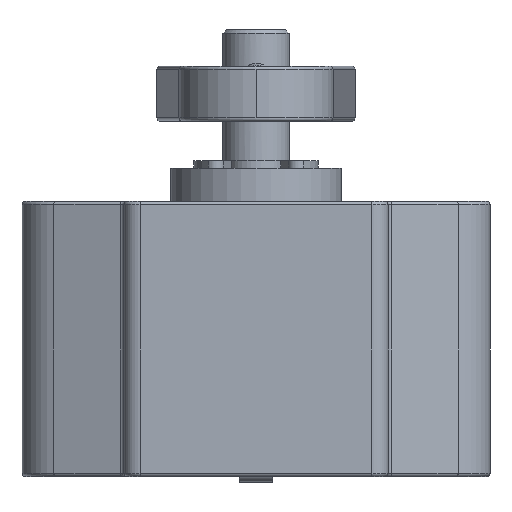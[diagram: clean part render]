
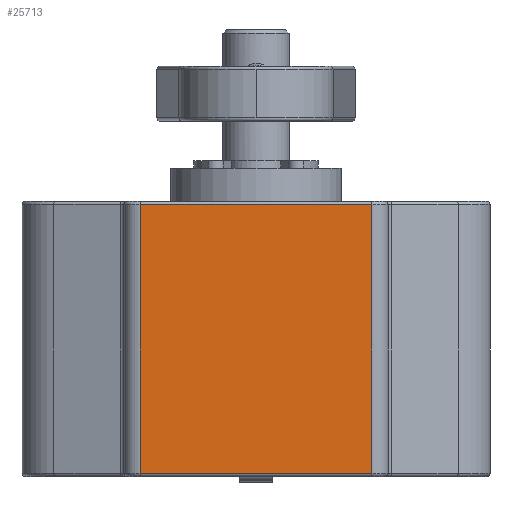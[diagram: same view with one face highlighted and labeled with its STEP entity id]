
A CAD part, front view. The second image highlights one B-rep face of the part: STEP entity #25713.
In plain terms, the highlighted planar face has unit normal (0, -1, 0).
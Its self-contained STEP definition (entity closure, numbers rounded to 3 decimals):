
#44 = LINE ( 'NONE', #13844, #12508 ) ;
#1268 = DIRECTION ( 'NONE',  ( 1., 0., 0. ) ) ;
#1589 = FACE_OUTER_BOUND ( 'NONE', #24464, .T. ) ;
#2717 = LINE ( 'NONE', #10736, #11971 ) ;
#3313 = AXIS2_PLACEMENT_3D ( 'NONE', #23558, #19350, #15393 ) ;
#3882 = ORIENTED_EDGE ( 'NONE', *, *, #17895, .T. ) ;
#7228 = VERTEX_POINT ( 'NONE', #22332 ) ;
#8078 = VERTEX_POINT ( 'NONE', #15217 ) ;
#8864 = CARTESIAN_POINT ( 'NONE',  ( 10.5, -13., -27.7 ) ) ;
#9059 = ORIENTED_EDGE ( 'NONE', *, *, #11480, .T. ) ;
#9956 = VECTOR ( 'NONE', #1268, 1000. ) ;
#10384 = VERTEX_POINT ( 'NONE', #25570 ) ;
#10736 = CARTESIAN_POINT ( 'NONE',  ( 10.5, -13., -28. ) ) ;
#11246 = LINE ( 'NONE', #19293, #9956 ) ;
#11480 = EDGE_CURVE ( 'NONE', #8078, #7228, #44, .T. ) ;
#11804 = ORIENTED_EDGE ( 'NONE', *, *, #23178, .T. ) ;
#11971 = VECTOR ( 'NONE', #18791, 1000. ) ;
#12508 = VECTOR ( 'NONE', #21900, 1000. ) ;
#13286 = PLANE ( 'NONE',  #3313 ) ;
#13844 = CARTESIAN_POINT ( 'NONE',  ( -10.5, -13., -3.3 ) ) ;
#15217 = CARTESIAN_POINT ( 'NONE',  ( 10.5, -13., -3.3 ) ) ;
#15393 = DIRECTION ( 'NONE',  ( 0., 0., -1. ) ) ;
#16038 = VERTEX_POINT ( 'NONE', #8864 ) ;
#17762 = LINE ( 'NONE', #21872, #22020 ) ;
#17895 = EDGE_CURVE ( 'NONE', #7228, #10384, #17762, .T. ) ;
#18791 = DIRECTION ( 'NONE',  ( 0., 0., 1. ) ) ;
#19293 = CARTESIAN_POINT ( 'NONE',  ( 10.5, -13., -27.7 ) ) ;
#19350 = DIRECTION ( 'NONE',  ( 0., -1., 0. ) ) ;
#19680 = EDGE_CURVE ( 'NONE', #16038, #8078, #2717, .T. ) ;
#21872 = CARTESIAN_POINT ( 'NONE',  ( -10.5, -13., -28. ) ) ;
#21900 = DIRECTION ( 'NONE',  ( -1., 0., 0. ) ) ;
#22020 = VECTOR ( 'NONE', #25932, 1000. ) ;
#22332 = CARTESIAN_POINT ( 'NONE',  ( -10.5, -13., -3.3 ) ) ;
#23178 = EDGE_CURVE ( 'NONE', #10384, #16038, #11246, .T. ) ;
#23558 = CARTESIAN_POINT ( 'NONE',  ( -12., -13., -28. ) ) ;
#24464 = EDGE_LOOP ( 'NONE', ( #25181, #9059, #3882, #11804 ) ) ;
#25181 = ORIENTED_EDGE ( 'NONE', *, *, #19680, .T. ) ;
#25570 = CARTESIAN_POINT ( 'NONE',  ( -10.5, -13., -27.7 ) ) ;
#25713 = ADVANCED_FACE ( 'NONE', ( #1589 ), #13286, .T. ) ;
#25932 = DIRECTION ( 'NONE',  ( 0., 0., -1. ) ) ;
